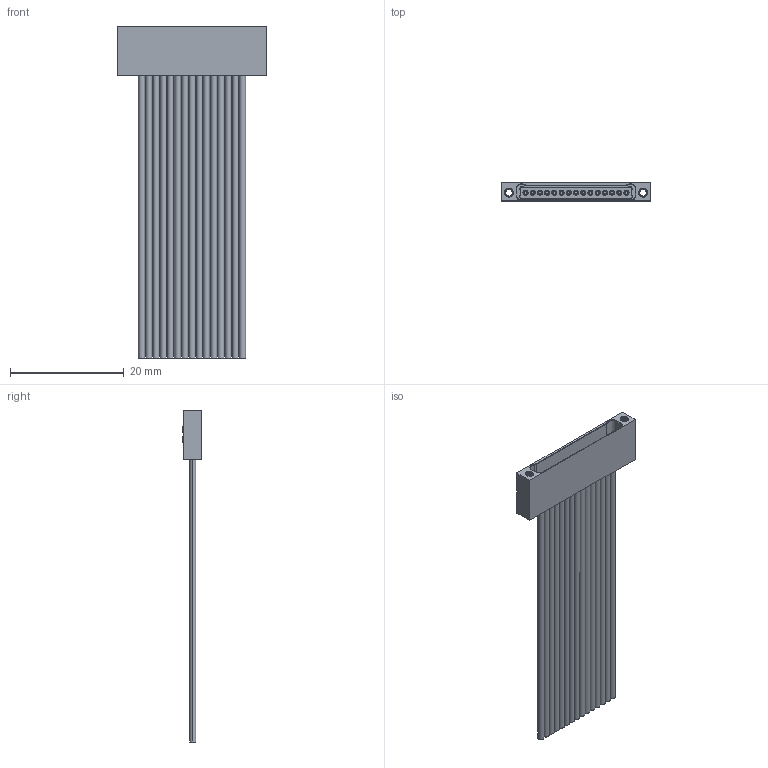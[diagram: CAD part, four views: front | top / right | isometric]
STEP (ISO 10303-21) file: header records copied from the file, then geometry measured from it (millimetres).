
FILE_DESCRIPTION (( 'STEP AP214' ), '1' );
FILE_NAME ('A92001-015 REV A.STEP', '2021-03-01T22:27:21', ( '' ), ( '' ), 'SwSTEP 2.0', 'SolidWorks 2019', '' );
FILE_SCHEMA (( 'AUTOMOTIVE_DESIGN' ));
Length unit declared in the file: inch
Products named in the file (1): A92001-015 REV A
Bounding box: 26.29 x 3.19 x 58.47 mm (x, y, z)
Volume: 1142.8 mm3; surface area: 4251.3 mm2
Topology: 1 solids, 17 shells, 654 faces, 1516 edges, 986 vertices
Faces by surface type: cylinder 276, plane 254, bspline 57, cone 36, torus 31
Entity records: 33141 total; most frequent: CARTESIAN_POINT 9824, DIRECTION 3045, ORIENTED_EDGE 3032, EDGE_CURVE 1516, AXIS2_PLACEMENT_3D 1153, VERTEX_POINT 986, EDGE_LOOP 778, VECTOR 739
